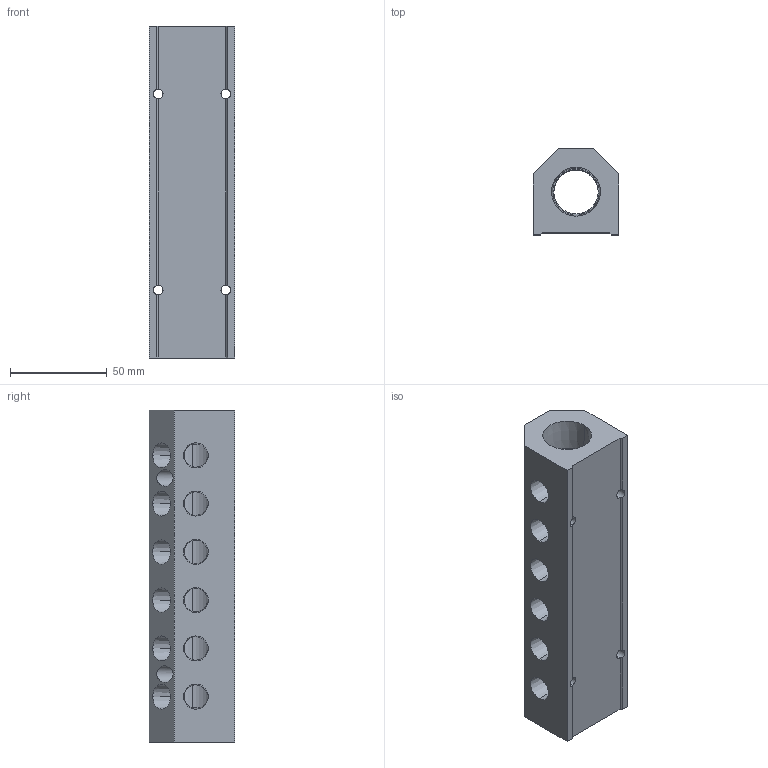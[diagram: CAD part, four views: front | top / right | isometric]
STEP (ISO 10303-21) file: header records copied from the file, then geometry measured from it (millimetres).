
FILE_DESCRIPTION (( 'STEP AP214' ), '1' );
FILE_NAME ('ALM6AB-N4N12-172B.step', '2022-02-06T14:10:29', ( '' ), ( '' ), 'SwSTEP 2.0', 'SolidWorks 2020', '' );
FILE_SCHEMA (( 'AUTOMOTIVE_DESIGN' ));
Length unit declared in the file: millimetre
Products named in the file (1): ALM6AB-N4N12-172B
Bounding box: 44.5 x 44.5 x 172 mm (x, y, z)
Volume: 211355.9 mm3; surface area: 48039 mm2
Topology: 1 solids, 1 shells, 318 faces, 875 edges, 580 vertices
Faces by surface type: plane 216, bspline 45, cone 33, cylinder 24
Entity records: 14253 total; most frequent: CARTESIAN_POINT 6169, ORIENTED_EDGE 1750, DIRECTION 1319, EDGE_CURVE 875, LINE 627, VECTOR 627, VERTEX_POINT 580, EDGE_LOOP 373
